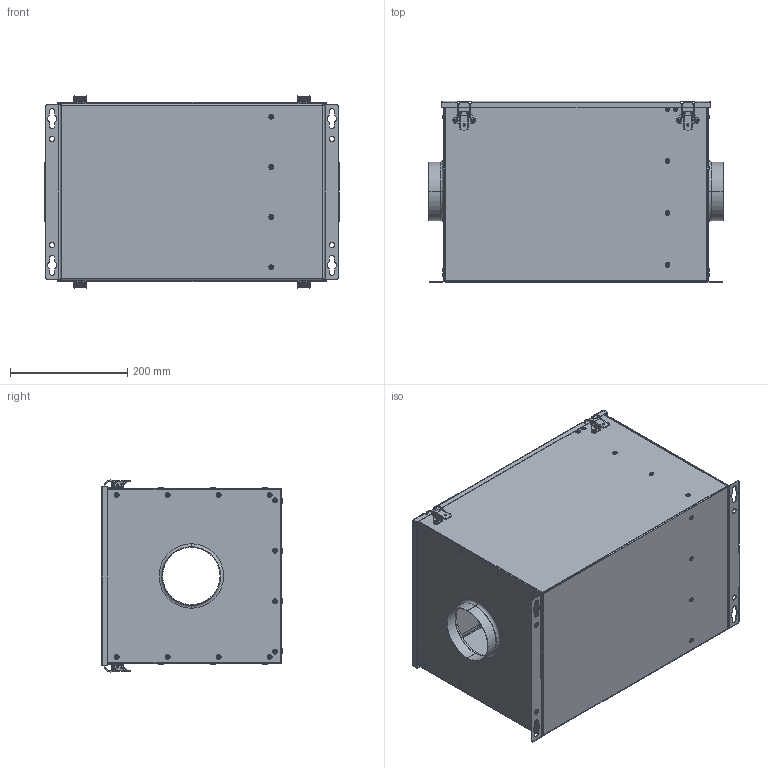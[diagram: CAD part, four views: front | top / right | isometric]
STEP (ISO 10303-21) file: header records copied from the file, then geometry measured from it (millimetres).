
FILE_DESCRIPTION (( 'STEP AP203' ), '1' );
FILE_NAME ('112844-02_FT100_step.step', '2020-08-26T08:14:01', ( '' ), ( '' ), 'SwSTEP 2.0', 'SolidWorks 2017', '' );
FILE_SCHEMA (( 'CONFIG_CONTROL_DESIGN' ));
Length unit declared in the file: millimetre
Products named in the file (1): 112844-02_FT100_step
Bounding box: 502 x 309.3 x 327.58 mm (x, y, z)
Surface area: 1402142.4 mm2 (no closed solid volume)
Topology: 0 solids, 72 shells, 727 faces, 2240 edges, 1505 vertices
Faces by surface type: cylinder 349, plane 186, torus 100, bspline 92
Entity records: 27123 total; most frequent: CARTESIAN_POINT 6713, DIRECTION 4709, ORIENTED_EDGE 3632, EDGE_CURVE 2240, AXIS2_PLACEMENT_3D 1901, VERTEX_POINT 1505, CIRCLE 1265, LINE 907
